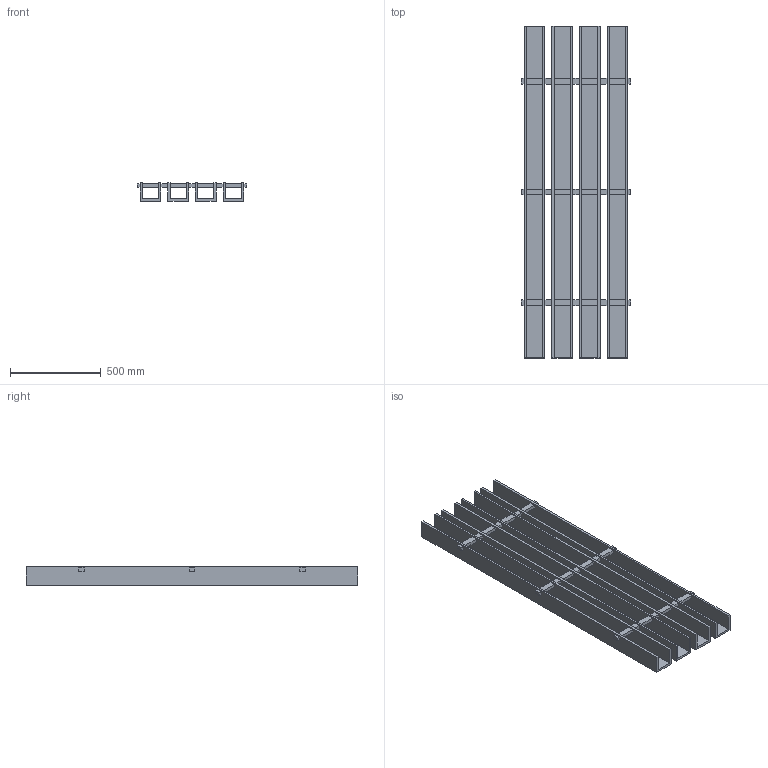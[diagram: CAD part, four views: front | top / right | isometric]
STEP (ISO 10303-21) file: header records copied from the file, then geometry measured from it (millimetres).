
FILE_DESCRIPTION(/* description */ (''),/* implementation_level */ '2;1');
FILE_NAME(/* name */ 'PET GRILLA_4.5x4_6ft',/* time_stamp */ '2024-10-15T14:22:22-05:00',/* author */ (''),/* organization */ (''),/* preprocessor_version */ 'ST-DEVELOPER v19.2',/* originating_system */ 'Rhino 8.4',/* authorisation */ '');
FILE_SCHEMA (('CONFIG_CONTROL_DESIGN'));
Length unit declared in the file: inch
Products named in the file (1): Document
Bounding box: 603.25 x 1828.8 x 101.6 mm (x, y, z)
Volume: 28047228.2 mm3; surface area: 4616523 mm2
Topology: 1 solids, 1 shells, 154 faces, 420 edges, 280 vertices
Faces by surface type: plane 154
Entity records: 4350 total; most frequent: CARTESIAN_POINT 1276, ORIENTED_EDGE 840, EDGE_CURVE 420, B_SPLINE_CURVE_WITH_KNOTS 420, VERTEX_POINT 280, EDGE_LOOP 202, DIRECTION 158, AXIS2_PLACEMENT_3D 156
